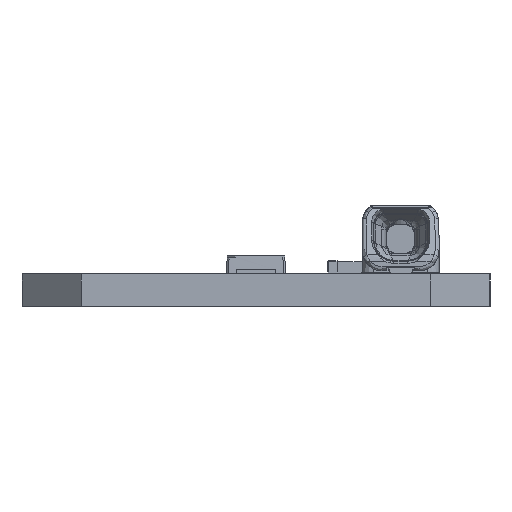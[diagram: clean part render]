
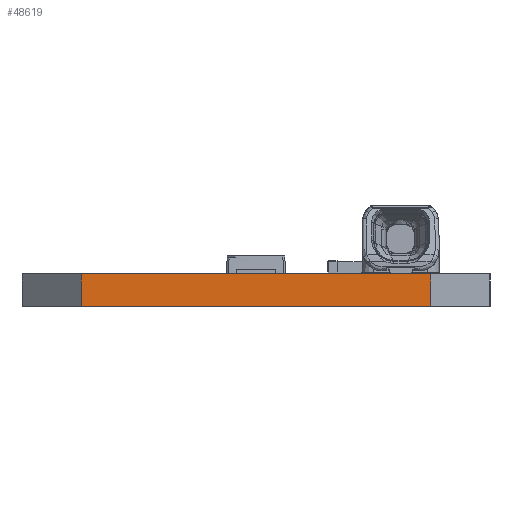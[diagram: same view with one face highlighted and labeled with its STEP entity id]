
A CAD part, left-side view. The second image highlights one B-rep face of the part: STEP entity #48619.
In plain terms, the highlighted planar face has unit normal (-1, 0, 0).
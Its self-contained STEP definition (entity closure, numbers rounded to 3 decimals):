
#2113=DIRECTION('',(0.,0.,1.));
#2114=VECTOR('',#2113,1.65);
#2115=CARTESIAN_POINT('',(-279.5,8.8,0.));
#2116=LINE('',#2115,#2114);
#2120=DIRECTION('',(0.,-1.,0.));
#2121=VECTOR('',#2120,17.6);
#2122=CARTESIAN_POINT('',(-279.5,8.8,1.65));
#2123=LINE('',#2122,#2121);
#2127=DIRECTION('',(0.,0.,1.));
#2128=VECTOR('',#2127,1.65);
#2129=CARTESIAN_POINT('',(-279.5,-8.8,0.));
#2130=LINE('',#2129,#2128);
#2397=DIRECTION('',(0.,-1.,0.));
#2398=VECTOR('',#2397,17.6);
#2399=CARTESIAN_POINT('',(-279.5,8.8,0.));
#2400=LINE('',#2399,#2398);
#41154=CARTESIAN_POINT('',(-279.5,-8.8,1.65));
#41155=VERTEX_POINT('',#41154);
#41156=CARTESIAN_POINT('',(-279.5,8.8,1.65));
#41157=VERTEX_POINT('',#41156);
#41917=CARTESIAN_POINT('',(-279.5,8.8,0.));
#41918=VERTEX_POINT('',#41917);
#41919=CARTESIAN_POINT('',(-279.5,-8.8,0.));
#41920=VERTEX_POINT('',#41919);
#48606=CARTESIAN_POINT('',(-279.5,0.,0.825));
#48607=DIRECTION('',(1.,0.,0.));
#48608=DIRECTION('',(0.,0.,1.));
#48609=AXIS2_PLACEMENT_3D('',#48606,#48607,#48608);
#48610=PLANE('',#48609);
#48612=ORIENTED_EDGE('',*,*,#48611,.F.);
#48614=ORIENTED_EDGE('',*,*,#48613,.F.);
#48615=ORIENTED_EDGE('',*,*,#48590,.T.);
#48616=ORIENTED_EDGE('',*,*,#47166,.T.);
#48617=EDGE_LOOP('',(#48612,#48614,#48615,#48616));
#48618=FACE_OUTER_BOUND('',#48617,.F.);
#47166=EDGE_CURVE('',#41157,#41155,#2123,.T.);
#48590=EDGE_CURVE('',#41918,#41157,#2116,.T.);
#48611=EDGE_CURVE('',#41920,#41155,#2130,.T.);
#48613=EDGE_CURVE('',#41918,#41920,#2400,.T.);
#48619=ADVANCED_FACE('',(#48618),#48610,.F.);
